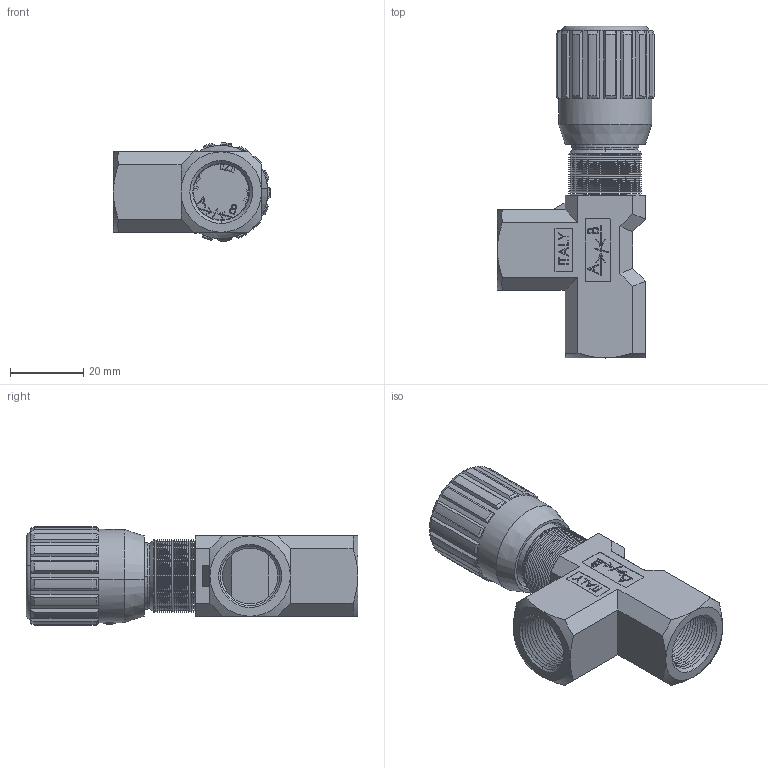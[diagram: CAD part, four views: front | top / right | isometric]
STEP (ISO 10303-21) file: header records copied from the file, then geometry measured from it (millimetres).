
FILE_DESCRIPTION (( 'STEP AP214' ), '1' );
FILE_NAME ('2252-2-38 VOLANTINO F-F.STEP', '2015-05-19T15:15:46', ( '' ), ( '' ), 'SwSTEP 2.0', 'SolidWorks 2014', '' );
FILE_SCHEMA (( 'AUTOMOTIVE_DESIGN' ));
Length unit declared in the file: millimetre
Products named in the file (1): 2252-2-38 VOLANTINO F-F
Bounding box: 43 x 90.8 x 27 mm (x, y, z)
Surface area: 13669.7 mm2 (no closed solid volume)
Topology: 0 solids, 21 shells, 589 faces, 1892 edges, 1252 vertices
Faces by surface type: plane 269, cone 206, cylinder 56, bspline 56, torus 2
Entity records: 31014 total; most frequent: CARTESIAN_POINT 8513, ORIENTED_EDGE 3186, DIRECTION 3136, EDGE_CURVE 1892, VERTEX_POINT 1252, LINE 1182, VECTOR 1182, AXIS2_PLACEMENT_3D 977
